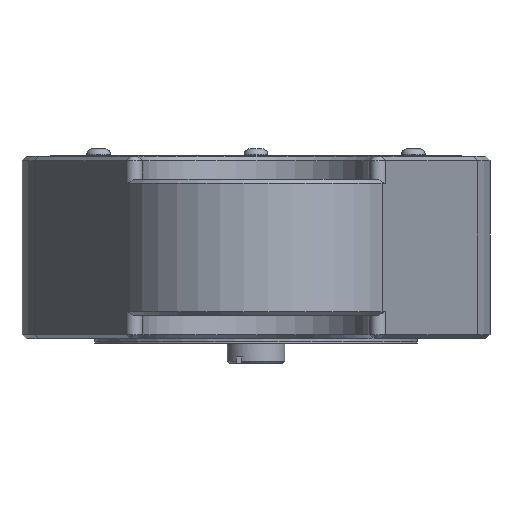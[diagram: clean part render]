
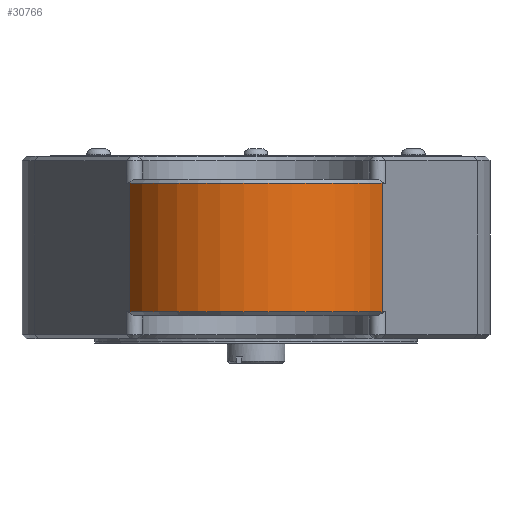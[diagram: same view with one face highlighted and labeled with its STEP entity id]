
A CAD part, left-side view. The second image highlights one B-rep face of the part: STEP entity #30766.
In plain terms, the highlighted cylindrical face has radius 34 mm (diameter 68 mm), a partial arc.
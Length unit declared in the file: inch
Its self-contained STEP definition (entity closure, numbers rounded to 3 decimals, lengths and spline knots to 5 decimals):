
#959=CYLINDRICAL_SURFACE('',#33068,1.33858);
#3890=LINE('',#51309,#6863);
#3891=LINE('',#51310,#6864);
#6863=VECTOR('',#40366,0.3937);
#6864=VECTOR('',#40367,0.3937);
#9540=FACE_OUTER_BOUND('',#11251,.T.);
#11251=EDGE_LOOP('',(#27026,#27027,#27028,#27029));
#12158=CIRCLE('',#33007,1.33858);
#12182=CIRCLE('',#33049,1.33858);
#14760=VERTEX_POINT('',#51054);
#14761=VERTEX_POINT('',#51058);
#14802=VERTEX_POINT('',#51208);
#14803=VERTEX_POINT('',#51209);
#18853=EDGE_CURVE('',#14760,#14761,#12158,.T.);
#18911=EDGE_CURVE('',#14802,#14803,#12182,.T.);
#18939=EDGE_CURVE('',#14802,#14760,#3890,.T.);
#18940=EDGE_CURVE('',#14761,#14803,#3891,.T.);
#27026=ORIENTED_EDGE('',*,*,#18853,.F.);
#27027=ORIENTED_EDGE('',*,*,#18939,.F.);
#27028=ORIENTED_EDGE('',*,*,#18911,.T.);
#27029=ORIENTED_EDGE('',*,*,#18940,.F.);
#30766=ADVANCED_FACE('',(#9540),#959,.T.);
#33007=AXIS2_PLACEMENT_3D('',#51059,#40206,#40207);
#33049=AXIS2_PLACEMENT_3D('',#51210,#40318,#40319);
#33068=AXIS2_PLACEMENT_3D('',#51308,#40364,#40365);
#40206=DIRECTION('center_axis',(0.,0.,1.));
#40207=DIRECTION('ref_axis',(-1.,0.,0.));
#40318=DIRECTION('center_axis',(0.,0.,1.));
#40319=DIRECTION('ref_axis',(-1.,0.,0.));
#40364=DIRECTION('center_axis',(0.,0.,-1.));
#40365=DIRECTION('ref_axis',(-1.,0.,0.));
#40366=DIRECTION('',(0.,0.,1.));
#40367=DIRECTION('',(0.,0.,-1.));
#51054=CARTESIAN_POINT('',(-3.66814,1.19794,1.47638));
#51058=CARTESIAN_POINT('',(-3.66814,-1.19794,1.47638));
#51059=CARTESIAN_POINT('Origin',(-3.07087,0.,
1.47638));
#51208=CARTESIAN_POINT('',(-3.66814,1.19794,0.25591));
#51209=CARTESIAN_POINT('',(-3.66814,-1.19794,0.25591));
#51210=CARTESIAN_POINT('Origin',(-3.07087,0.,
0.25591));
#51308=CARTESIAN_POINT('Origin',(-3.07087,0.,
1.73228));
#51309=CARTESIAN_POINT('',(-3.66814,1.19794,0.));
#51310=CARTESIAN_POINT('',(-3.66814,-1.19794,1.73228));
